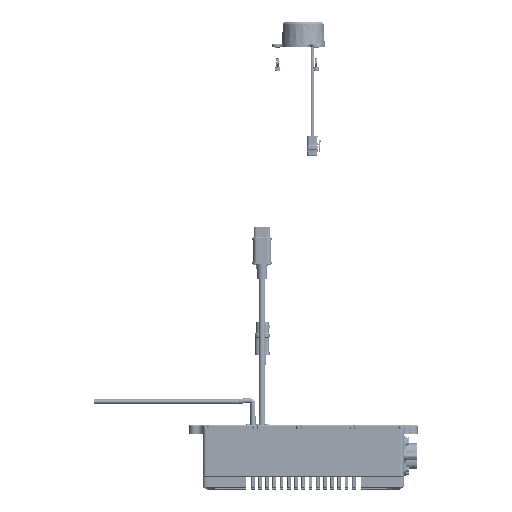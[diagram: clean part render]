
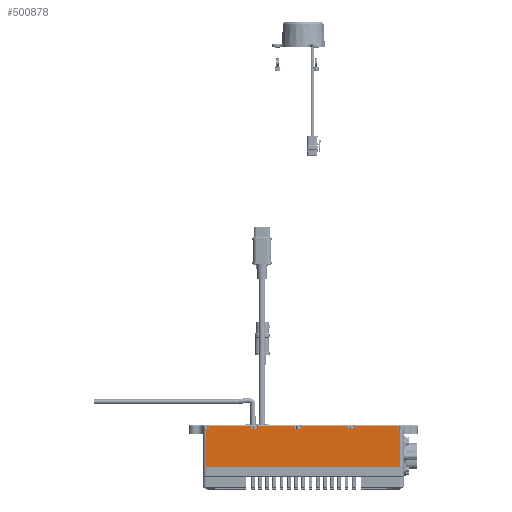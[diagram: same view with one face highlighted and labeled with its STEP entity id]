
A CAD part, top view. The second image highlights one B-rep face of the part: STEP entity #500878.
In plain terms, the highlighted planar face has unit normal (0, 0, 1).
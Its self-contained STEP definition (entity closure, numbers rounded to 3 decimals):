
#30717=DIRECTION('',(0.,-1.,0.));
#30718=VECTOR('',#30717,3.2);
#30719=CARTESIAN_POINT('',(-99.5,45.4,
52.));
#30720=LINE('',#30719,#30718);
#30726=DIRECTION('',(1.,0.,0.));
#30727=VECTOR('',#30726,204.);
#30728=CARTESIAN_POINT('',(-102.,2.,52.));
#30729=LINE('',#30728,#30727);
#30730=DIRECTION('',(-1.,0.,0.));
#30731=VECTOR('',#30730,2.5);
#30732=CARTESIAN_POINT('',(-99.5,42.2,52.));
#30733=LINE('',#30732,#30731);
#30734=DIRECTION('',(1.,0.,0.));
#30735=VECTOR('',#30734,45.);
#30736=CARTESIAN_POINT('',(-99.5,45.4,
52.));
#30737=LINE('',#30736,#30735);
#30738=DIRECTION('',(0.,1.,0.));
#30739=VECTOR('',#30738,2.9);
#30740=CARTESIAN_POINT('',(-54.5,42.5,52.));
#30741=LINE('',#30740,#30739);
#30742=DIRECTION('',(0.,-1.,0.));
#30743=VECTOR('',#30742,2.9);
#30744=CARTESIAN_POINT('',(-47.5,45.4,
52.));
#30745=LINE('',#30744,#30743);
#30746=DIRECTION('',(1.,0.,0.));
#30747=VECTOR('',#30746,39.);
#30748=CARTESIAN_POINT('',(-47.5,45.4,
52.));
#30749=LINE('',#30748,#30747);
#30750=DIRECTION('',(0.,1.,0.));
#30751=VECTOR('',#30750,2.9);
#30752=CARTESIAN_POINT('',(-8.5,42.5,52.));
#30753=LINE('',#30752,#30751);
#30754=DIRECTION('',(0.,-1.,0.));
#30755=VECTOR('',#30754,2.9);
#30756=CARTESIAN_POINT('',(-1.5,45.4,
52.));
#30757=LINE('',#30756,#30755);
#30758=DIRECTION('',(1.,0.,0.));
#30759=VECTOR('',#30758,49.);
#30760=CARTESIAN_POINT('',(-1.5,45.4,
52.));
#30761=LINE('',#30760,#30759);
#30762=DIRECTION('',(0.,1.,0.));
#30763=VECTOR('',#30762,2.9);
#30764=CARTESIAN_POINT('',(47.5,42.5,52.));
#30765=LINE('',#30764,#30763);
#30766=DIRECTION('',(0.,-1.,0.));
#30767=VECTOR('',#30766,2.9);
#30768=CARTESIAN_POINT('',(54.5,45.4,52.));
#30769=LINE('',#30768,#30767);
#30770=DIRECTION('',(1.,0.,0.));
#30771=VECTOR('',#30770,45.);
#30772=CARTESIAN_POINT('',(54.5,45.4,52.));
#30773=LINE('',#30772,#30771);
#30774=DIRECTION('',(1.,0.,0.));
#30775=VECTOR('',#30774,2.5);
#30776=CARTESIAN_POINT('',(99.5,42.2,52.));
#30777=LINE('',#30776,#30775);
#30787=DIRECTION('',(0.,1.,0.));
#30788=VECTOR('',#30787,40.2);
#30789=CARTESIAN_POINT('',(102.,2.,52.));
#30790=LINE('',#30789,#30788);
#30828=DIRECTION('',(0.,-1.,0.));
#30829=VECTOR('',#30828,40.2);
#30830=CARTESIAN_POINT('',(-102.,42.2,
52.));
#30831=LINE('',#30830,#30829);
#150508=DIRECTION('',(0.,1.,0.));
#150509=VECTOR('',#150508,3.2);
#150510=CARTESIAN_POINT('',(99.5,42.2,52.));
#150511=LINE('',#150510,#150509);
#152248=DIRECTION('',(-1.,0.,0.));
#152249=VECTOR('',#152248,7.);
#152250=CARTESIAN_POINT('',(-47.5,42.5,52.));
#152251=LINE('',#152250,#152249);
#153954=DIRECTION('',(-1.,0.,0.));
#153955=VECTOR('',#153954,7.);
#153956=CARTESIAN_POINT('',(-1.5,42.5,52.));
#153957=LINE('',#153956,#153955);
#155656=DIRECTION('',(-1.,0.,0.));
#155657=VECTOR('',#155656,7.);
#155658=CARTESIAN_POINT('',(54.5,42.5,52.));
#155659=LINE('',#155658,#155657);
#437530=CARTESIAN_POINT('',(102.,42.2,52.));
#437532=VERTEX_POINT('',#437530);
#437536=CARTESIAN_POINT('',(99.5,42.2,52.));
#437537=VERTEX_POINT('',#437536);
#437550=CARTESIAN_POINT('',(-102.,42.2,52.));
#437552=VERTEX_POINT('',#437550);
#437558=CARTESIAN_POINT('',(-99.5,42.2,52.));
#437559=VERTEX_POINT('',#437558);
#438008=CARTESIAN_POINT('',(54.5,42.5,52.));
#438009=VERTEX_POINT('',#438008);
#438010=CARTESIAN_POINT('',(47.5,42.5,52.));
#438011=VERTEX_POINT('',#438010);
#438012=CARTESIAN_POINT('',(-54.5,42.5,52.));
#438013=VERTEX_POINT('',#438012);
#438014=CARTESIAN_POINT('',(-47.5,42.5,52.));
#438015=VERTEX_POINT('',#438014);
#438020=CARTESIAN_POINT('',(-1.5,42.5,52.));
#438021=VERTEX_POINT('',#438020);
#438022=CARTESIAN_POINT('',(-8.5,42.5,52.));
#438023=VERTEX_POINT('',#438022);
#439160=CARTESIAN_POINT('',(99.5,45.4,52.));
#439161=VERTEX_POINT('',#439160);
#439166=CARTESIAN_POINT('',(-99.5,45.4,
52.));
#439167=CARTESIAN_POINT('',(-54.5,45.4,
52.));
#439168=VERTEX_POINT('',#439166);
#439169=VERTEX_POINT('',#439167);
#439175=CARTESIAN_POINT('',(54.5,45.4,52.));
#439177=VERTEX_POINT('',#439175);
#439192=CARTESIAN_POINT('',(47.5,45.4,52.));
#439193=VERTEX_POINT('',#439192);
#439198=CARTESIAN_POINT('',(-47.5,45.4,
52.));
#439199=CARTESIAN_POINT('',(-8.5,45.4,
52.));
#439200=VERTEX_POINT('',#439198);
#439201=VERTEX_POINT('',#439199);
#439207=CARTESIAN_POINT('',(-1.5,45.4,52.));
#439209=VERTEX_POINT('',#439207);
#474360=CARTESIAN_POINT('',(-102.,2.,52.));
#474361=CARTESIAN_POINT('',(102.,2.,52.));
#474362=VERTEX_POINT('',#474360);
#474363=VERTEX_POINT('',#474361);
#500836=CARTESIAN_POINT('',(-102.,37.,52.));
#500837=DIRECTION('',(0.,0.,1.));
#500838=DIRECTION('',(1.,0.,0.));
#500839=AXIS2_PLACEMENT_3D('',#500836,#500837,#500838);
#500840=PLANE('',#500839);
#500842=ORIENTED_EDGE('',*,*,#500841,.F.);
#500844=ORIENTED_EDGE('',*,*,#500843,.F.);
#500846=ORIENTED_EDGE('',*,*,#500845,.F.);
#500848=ORIENTED_EDGE('',*,*,#500847,.F.);
#500849=ORIENTED_EDGE('',*,*,#500826,.F.);
#500850=ORIENTED_EDGE('',*,*,#496532,.T.);
#500852=ORIENTED_EDGE('',*,*,#500851,.F.);
#500854=ORIENTED_EDGE('',*,*,#500853,.F.);
#500856=ORIENTED_EDGE('',*,*,#500855,.F.);
#500857=ORIENTED_EDGE('',*,*,#496616,.T.);
#500859=ORIENTED_EDGE('',*,*,#500858,.F.);
#500861=ORIENTED_EDGE('',*,*,#500860,.F.);
#500863=ORIENTED_EDGE('',*,*,#500862,.F.);
#500864=ORIENTED_EDGE('',*,*,#496700,.T.);
#500866=ORIENTED_EDGE('',*,*,#500865,.F.);
#500868=ORIENTED_EDGE('',*,*,#500867,.F.);
#500870=ORIENTED_EDGE('',*,*,#500869,.F.);
#500871=ORIENTED_EDGE('',*,*,#496784,.T.);
#500873=ORIENTED_EDGE('',*,*,#500872,.F.);
#500875=ORIENTED_EDGE('',*,*,#500874,.T.);
#500876=EDGE_LOOP('',(#500842,#500844,#500846,#500848,#500849,#500850,#500852,
#500854,#500856,#500857,#500859,#500861,#500863,#500864,#500866,#500868,#500870,
#500871,#500873,#500875));
#500877=FACE_OUTER_BOUND('',#500876,.F.);
#500878=ADVANCED_FACE('',(#500877),#500840,.T.);
#496532=EDGE_CURVE('',#439168,#439169,#30737,.T.);
#496616=EDGE_CURVE('',#439200,#439201,#30749,.T.);
#496700=EDGE_CURVE('',#439209,#439193,#30761,.T.);
#496784=EDGE_CURVE('',#439177,#439161,#30773,.T.);
#500826=EDGE_CURVE('',#439168,#437559,#30720,.T.);
#500841=EDGE_CURVE('',#474363,#437532,#30790,.T.);
#500843=EDGE_CURVE('',#474362,#474363,#30729,.T.);
#500845=EDGE_CURVE('',#437552,#474362,#30831,.T.);
#500847=EDGE_CURVE('',#437559,#437552,#30733,.T.);
#500851=EDGE_CURVE('',#438013,#439169,#30741,.T.);
#500853=EDGE_CURVE('',#438015,#438013,#152251,.T.);
#500855=EDGE_CURVE('',#439200,#438015,#30745,.T.);
#500858=EDGE_CURVE('',#438023,#439201,#30753,.T.);
#500860=EDGE_CURVE('',#438021,#438023,#153957,.T.);
#500862=EDGE_CURVE('',#439209,#438021,#30757,.T.);
#500865=EDGE_CURVE('',#438011,#439193,#30765,.T.);
#500867=EDGE_CURVE('',#438009,#438011,#155659,.T.);
#500869=EDGE_CURVE('',#439177,#438009,#30769,.T.);
#500872=EDGE_CURVE('',#437537,#439161,#150511,.T.);
#500874=EDGE_CURVE('',#437537,#437532,#30777,.T.);
